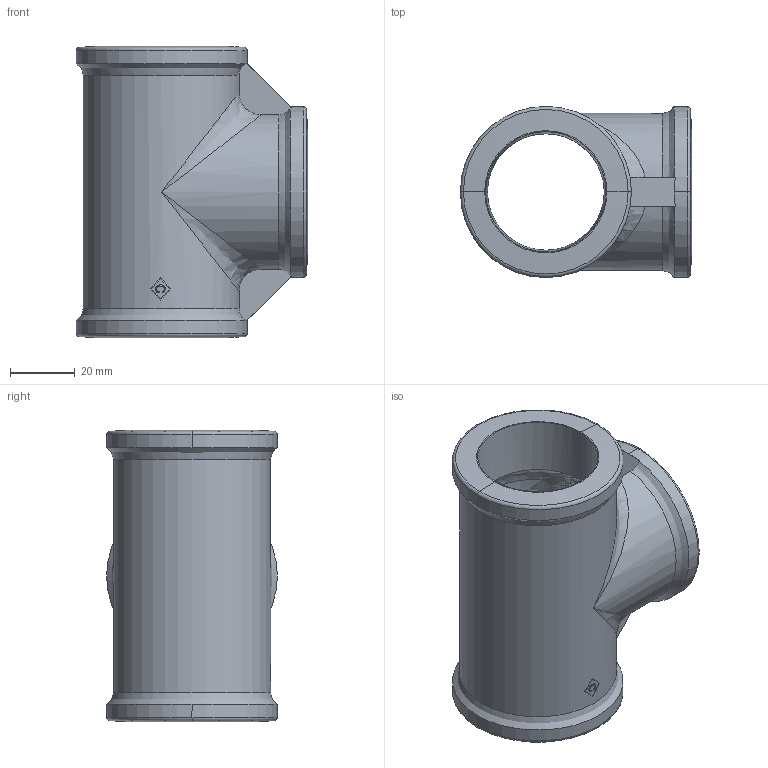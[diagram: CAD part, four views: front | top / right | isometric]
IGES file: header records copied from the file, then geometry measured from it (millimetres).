
Global section: file name: No Iges File Name specified; native system: AutoDesk Inventor R12.0; preprocessor: AutoDesk Inventor Iges Exporter R12.0; date: 20090916.120549; units: millimetre
Bounding box: 71.35 x 52.7 x 90 mm (x, y, z)
Volume: 76906.7 mm3; surface area: 33224 mm2
Topology: 1 solids, 1 shells, 78 faces, 222 edges, 140 vertices
Faces by surface type: bspline 26, plane 19, cylinder 12, revolution 9, cone 6, torus 6
